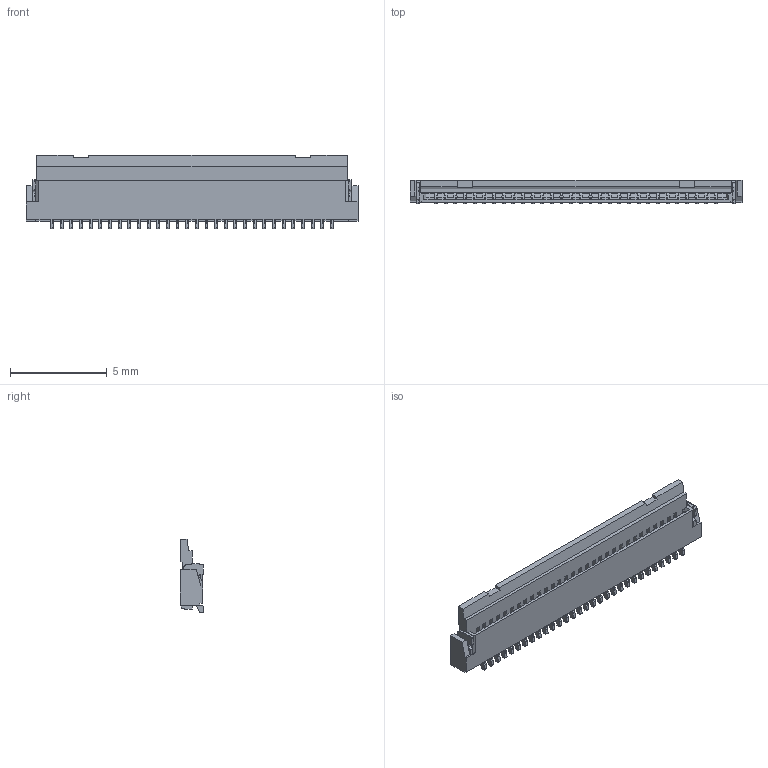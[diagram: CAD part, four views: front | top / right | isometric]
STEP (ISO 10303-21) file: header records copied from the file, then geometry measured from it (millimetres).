
FILE_DESCRIPTION((''),'2;1');
FILE_NAME('S-51536-021XX-001','2012-06-15T',('12114032'),(''),'PRO/ENGINEER BY PARAMETRIC TECHNOLOGY CORPORATION, 2009360','PRO/ENGINEER BY PARAMETRIC TECHNOLOGY CORPORATION, 2009360','');
FILE_SCHEMA(('CONFIG_CONTROL_DESIGN'));
Products named in the file (1): S-51536-021XX-001
Bounding box: 17.2 x 1.2 x 3.83 mm (x, y, z)
Volume: 35.3 mm3; surface area: 358.5 mm2
Topology: 1 solids, 1 shells, 2487 faces, 8346 edges, 5575 vertices
Faces by surface type: plane 1619, cylinder 868
Entity records: 91828 total; most frequent: CARTESIAN_POINT 16792, ORIENTED_EDGE 16692, DIRECTION 15246, EDGE_CURVE 8346, VECTOR 6300, LINE 6300, VERTEX_POINT 5575, AXIS2_PLACEMENT_3D 4473
